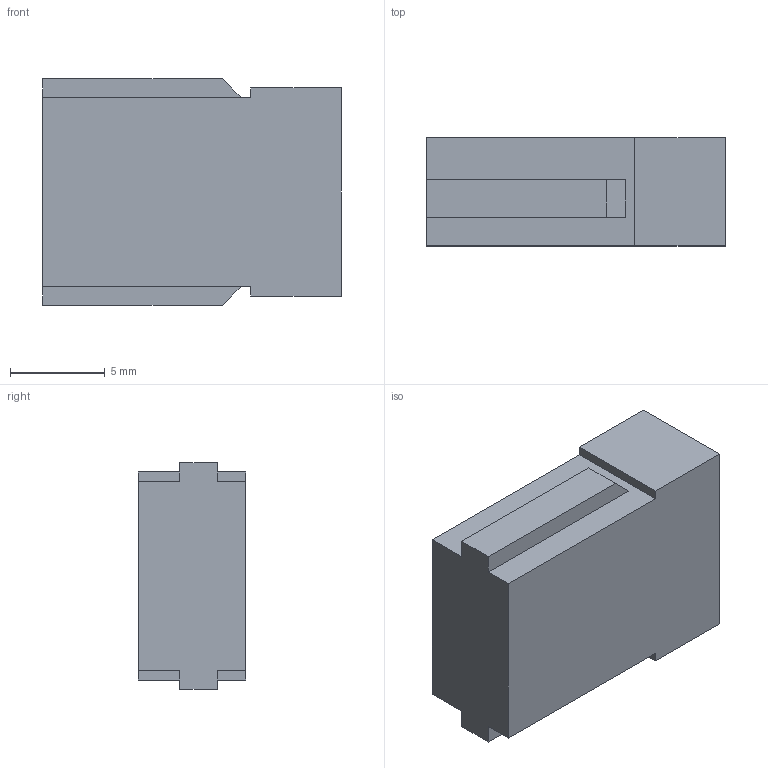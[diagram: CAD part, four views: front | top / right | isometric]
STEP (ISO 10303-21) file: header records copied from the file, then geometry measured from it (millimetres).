
FILE_DESCRIPTION (( 'STEP AP203' ), '1' );
FILE_NAME ('MS-FD-F7-2.STEP', '2005-10-27T01:17:10', ( '' ), ( '' ), 'SwSTEP 2.0', 'SolidWorks 2004073', '' );
FILE_SCHEMA (( 'CONFIG_CONTROL_DESIGN' ));
Length unit declared in the file: millimetre
Products named in the file (1): MS-FD-F7-2
Bounding box: 15.8 x 5.7 x 12 mm (x, y, z)
Volume: 968 mm3; surface area: 676.8 mm2
Topology: 1 solids, 1 shells, 18 faces, 48 edges, 32 vertices
Faces by surface type: plane 18
Entity records: 629 total; most frequent: CARTESIAN_POINT 99, ORIENTED_EDGE 96, DIRECTION 86, LINE 48, VECTOR 48, EDGE_CURVE 48, VERTEX_POINT 32, AXIS2_PLACEMENT_3D 19
